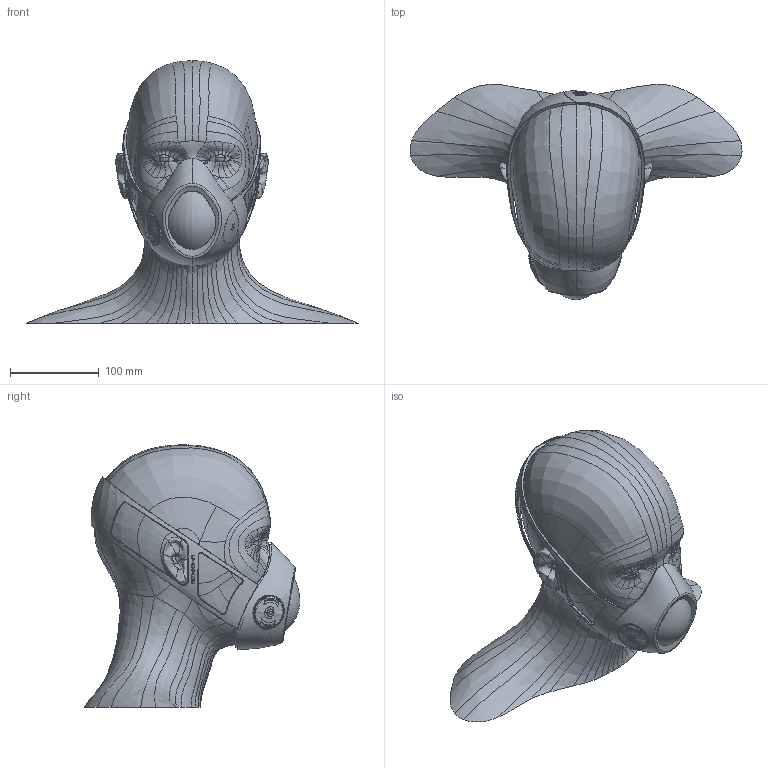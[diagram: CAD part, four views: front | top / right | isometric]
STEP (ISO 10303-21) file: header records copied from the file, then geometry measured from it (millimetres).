
FILE_DESCRIPTION(/* description */ (''),/* implementation_level */ '2;1');
FILE_NAME(/* name */ 'C-Over',/* time_stamp */ '2019-07-20T14:38:14+09:00',/* author */ (''),/* organization */ (''),/* preprocessor_version */ 'ST-DEVELOPER v15',/* originating_system */ '',/* authorisation */ '');
FILE_SCHEMA (('AUTOMOTIVE_DESIGN'));
Products named in the file (1): Document
Bounding box: 373.43 x 242.65 x 295.38 mm (x, y, z)
Volume: 5350129.9 mm3; surface area: 316994.7 mm2
Topology: 32 solids, 32 shells, 1040 faces, 2625 edges, 1649 vertices
Faces by surface type: bspline 995, plane 45
Entity records: 389825 total; most frequent: CARTESIAN_POINT 373590, ORIENTED_EDGE 5226, EDGE_CURVE 2613, B_SPLINE_CURVE_WITH_KNOTS 2067, VERTEX_POINT 1649, EDGE_LOOP 1192, ADVANCED_FACE 1040, FACE_OUTER_BOUND 1040
